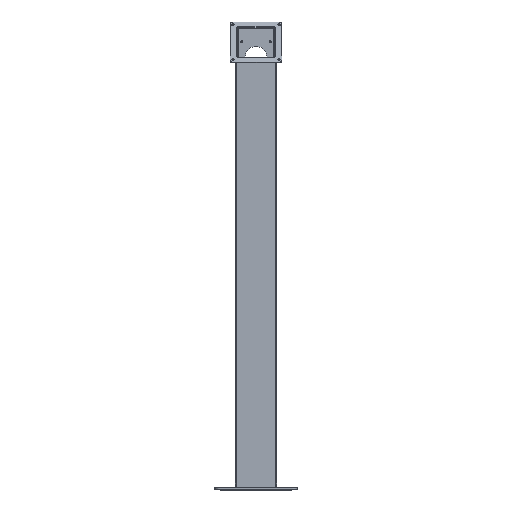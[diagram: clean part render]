
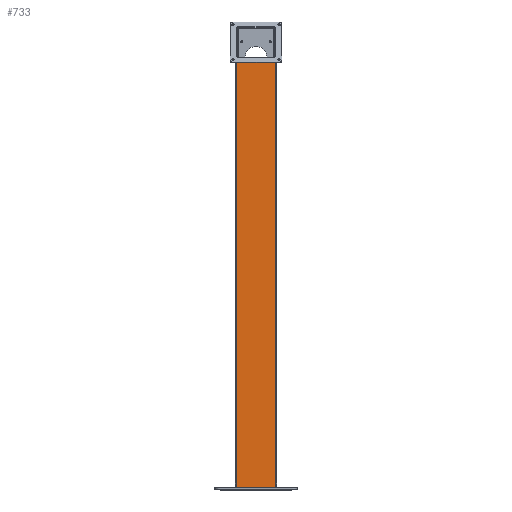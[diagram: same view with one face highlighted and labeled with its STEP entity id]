
A CAD part, top view. The second image highlights one B-rep face of the part: STEP entity #733.
In plain terms, the highlighted planar face has unit normal (0, 0, 1).
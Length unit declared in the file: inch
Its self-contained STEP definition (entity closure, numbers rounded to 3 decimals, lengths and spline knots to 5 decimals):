
#32 = VERTEX_POINT ( 'NONE', #2483 ) ;
#34 = LINE ( 'NONE', #2011, #493 ) ;
#134 = VERTEX_POINT ( 'NONE', #577 ) ;
#166 = CARTESIAN_POINT ( 'NONE',  ( -1.88189, 47.5, 1. ) ) ;
#192 = DIRECTION ( 'NONE',  ( 0., -1., 0. ) ) ;
#214 = VECTOR ( 'NONE', #2436, 39.37008 ) ;
#239 = VERTEX_POINT ( 'NONE', #1342 ) ;
#328 = ORIENTED_EDGE ( 'NONE', *, *, #639, .T. ) ;
#389 = ORIENTED_EDGE ( 'NONE', *, *, #484, .F. ) ;
#484 = EDGE_CURVE ( 'NONE', #239, #716, #34, .T. ) ;
#493 = VECTOR ( 'NONE', #2026, 39.37008 ) ;
#577 = CARTESIAN_POINT ( 'NONE',  ( -1.88189, 41.819, 1. ) ) ;
#582 = PLANE ( 'NONE',  #698 ) ;
#639 = EDGE_CURVE ( 'NONE', #134, #716, #2442, .T. ) ;
#698 = AXIS2_PLACEMENT_3D ( 'NONE', #803, #1063, #1872 ) ;
#716 = VERTEX_POINT ( 'NONE', #1662 ) ;
#733 = ADVANCED_FACE ( 'NONE', ( #1098 ), #582, .F. ) ;
#761 = LINE ( 'NONE', #1284, #214 ) ;
#798 = EDGE_LOOP ( 'NONE', ( #389, #2023, #894, #328 ) ) ;
#803 = CARTESIAN_POINT ( 'NONE',  ( -2., 47.5, 1. ) ) ;
#830 = VECTOR ( 'NONE', #2384, 39.37008 ) ;
#894 = ORIENTED_EDGE ( 'NONE', *, *, #1269, .F. ) ;
#1063 = DIRECTION ( 'NONE',  ( 0., 0., -1. ) ) ;
#1098 = FACE_OUTER_BOUND ( 'NONE', #798, .T. ) ;
#1269 = EDGE_CURVE ( 'NONE', #134, #32, #761, .T. ) ;
#1284 = CARTESIAN_POINT ( 'NONE',  ( -4., 41.819, 1. ) ) ;
#1305 = VECTOR ( 'NONE', #192, 39.37008 ) ;
#1342 = CARTESIAN_POINT ( 'NONE',  ( 1.88189, 0.188, 1. ) ) ;
#1405 = LINE ( 'NONE', #1946, #830 ) ;
#1662 = CARTESIAN_POINT ( 'NONE',  ( -1.88189, 0.188, 1. ) ) ;
#1872 = DIRECTION ( 'NONE',  ( -1., 0., 0. ) ) ;
#1946 = CARTESIAN_POINT ( 'NONE',  ( 1.88189, 47.5, 1. ) ) ;
#2011 = CARTESIAN_POINT ( 'NONE',  ( 3.5, 0.188, 1. ) ) ;
#2023 = ORIENTED_EDGE ( 'NONE', *, *, #2082, .T. ) ;
#2026 = DIRECTION ( 'NONE',  ( -1., 0., 0. ) ) ;
#2082 = EDGE_CURVE ( 'NONE', #239, #32, #1405, .T. ) ;
#2384 = DIRECTION ( 'NONE',  ( 0., 1., 0. ) ) ;
#2436 = DIRECTION ( 'NONE',  ( 1., 0., 0. ) ) ;
#2442 = LINE ( 'NONE', #166, #1305 ) ;
#2483 = CARTESIAN_POINT ( 'NONE',  ( 1.88189, 41.819, 1. ) ) ;
